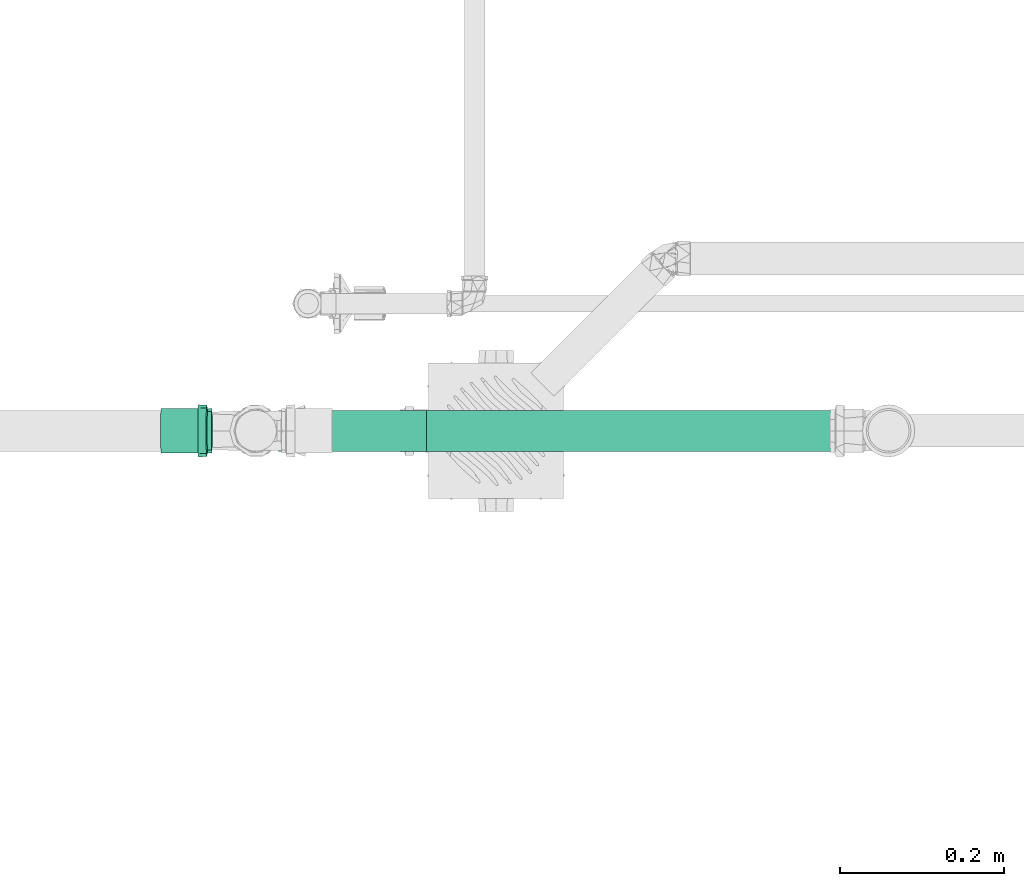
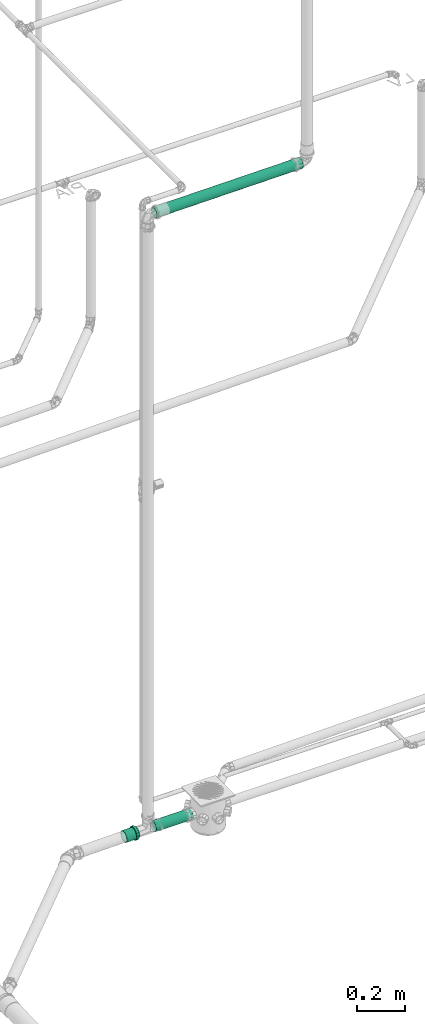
# One storey, part 29 of 589: 2 flow segments, 1 flow fitting.
"""IFC2X3 building model written with IfcOpenShell, lengths in millimetres."""

from ifc_helpers import new_model, entity, si_unit, converted_unit, derived_unit, direction, frame, frame_2d, origin, origin_2d_with_axis, place, context, subcontext, project, spatial, circle, extrude, faceted_brep, source, transform, mapped, material, type_object, type_shapes, element, save


model = new_model("IFC2X3")

# Units and contexts
model_context = context("Model", 3, precision=0.01, world=origin(), true_north=direction((6.123031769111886e-17, 1.0)))
body_context = subcontext(model_context, "Body", "Model", "MODEL_VIEW")
ifc_project = project(units=[si_unit("LENGTHUNIT", "METRE", prefix="MILLI"), si_unit("AREAUNIT", "SQUARE_METRE"), si_unit("VOLUMEUNIT", "CUBIC_METRE"), converted_unit("PLANEANGLEUNIT", "DEGREE", entity("IfcRatioMeasure", 0.017453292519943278), si_unit("PLANEANGLEUNIT", "RADIAN"), dimensions=[0, 0, 0, 0, 0, 0, 0]), si_unit("MASSUNIT", "GRAM", prefix="KILO"), derived_unit("MASSDENSITYUNIT", [(si_unit("MASSUNIT", "GRAM", prefix="KILO"), 1), (si_unit("LENGTHUNIT", "METRE"), -3)]), derived_unit("IONCONCENTRATIONUNIT", [(si_unit("MASSUNIT", "GRAM", prefix="KILO"), 1), (si_unit("LENGTHUNIT", "METRE"), -3)]), derived_unit("MOMENTOFINERTIAUNIT", [(si_unit("LENGTHUNIT", "METRE"), 4)]), si_unit("TIMEUNIT", "SECOND"), si_unit("FREQUENCYUNIT", "HERTZ"), si_unit("THERMODYNAMICTEMPERATUREUNIT", "DEGREE_CELSIUS"), derived_unit("THERMALTRANSMITTANCEUNIT", [(si_unit("MASSUNIT", "GRAM", prefix="KILO"), 1), (si_unit("THERMODYNAMICTEMPERATUREUNIT", "KELVIN"), -1), (si_unit("TIMEUNIT", "SECOND"), -3)]), derived_unit("THERMALCONDUCTANCEUNIT", [(si_unit("MASSUNIT", "GRAM", prefix="KILO"), 1), (si_unit("THERMODYNAMICTEMPERATUREUNIT", "KELVIN"), -1), (si_unit("TIMEUNIT", "SECOND"), -3), (si_unit("LENGTHUNIT", "METRE"), 1)]), derived_unit("VOLUMETRICFLOWRATEUNIT", [(si_unit("LENGTHUNIT", "METRE"), 3), (si_unit("TIMEUNIT", "SECOND"), -1)]), derived_unit("MASSFLOWRATEUNIT", [(si_unit("MASSUNIT", "GRAM", prefix="KILO"), 1), (si_unit("TIMEUNIT", "SECOND"), -1)]), derived_unit("ROTATIONALFREQUENCYUNIT", [(si_unit("TIMEUNIT", "SECOND"), -1)]), si_unit("ELECTRICCURRENTUNIT", "AMPERE"), si_unit("ELECTRICVOLTAGEUNIT", "VOLT"), si_unit("POWERUNIT", "WATT"), si_unit("FORCEUNIT", "NEWTON", prefix="KILO"), si_unit("ILLUMINANCEUNIT", "LUX"), si_unit("LUMINOUSFLUXUNIT", "LUMEN"), si_unit("LUMINOUSINTENSITYUNIT", "CANDELA"), derived_unit("USERDEFINED", [(si_unit("MASSUNIT", "GRAM", prefix="KILO"), -1), (si_unit("LENGTHUNIT", "METRE"), -2), (si_unit("TIMEUNIT", "SECOND"), 3), (si_unit("LUMINOUSFLUXUNIT", "LUMEN"), 1)]), derived_unit("USERDEFINED", [(si_unit("MASSUNIT", "GRAM", prefix="KILO"), 1), (si_unit("TIMEUNIT", "SECOND"), -3), (si_unit("LENGTHUNIT", "METRE"), 3), (si_unit("ELECTRICCURRENTUNIT", "AMPERE"), -2)]), derived_unit("SOUNDPOWERUNIT", [(si_unit("MASSUNIT", "GRAM", prefix="KILO"), 1), (si_unit("TIMEUNIT", "SECOND"), -3), (si_unit("LENGTHUNIT", "METRE"), 2)]), derived_unit("SOUNDPRESSUREUNIT", [(si_unit("MASSUNIT", "GRAM", prefix="KILO"), 1), (si_unit("LENGTHUNIT", "METRE"), -1), (si_unit("TIMEUNIT", "SECOND"), -2)]), derived_unit("LINEARVELOCITYUNIT", [(si_unit("LENGTHUNIT", "METRE"), 1), (si_unit("TIMEUNIT", "SECOND"), -1)]), si_unit("PRESSUREUNIT", "PASCAL"), derived_unit("USERDEFINED", [(si_unit("MASSUNIT", "GRAM", prefix="KILO"), 1), (si_unit("LENGTHUNIT", "METRE"), -2), (si_unit("TIMEUNIT", "SECOND"), -2)]), derived_unit("LINEARFORCEUNIT", [(si_unit("MASSUNIT", "GRAM", prefix="KILO"), 1), (si_unit("TIMEUNIT", "SECOND"), -2)]), derived_unit("PLANARFORCEUNIT", [(si_unit("MASSUNIT", "GRAM", prefix="KILO"), 1), (si_unit("LENGTHUNIT", "METRE"), -1), (si_unit("TIMEUNIT", "SECOND"), -2)]), derived_unit("SPECIFICHEATCAPACITYUNIT", [(si_unit("THERMODYNAMICTEMPERATUREUNIT", "KELVIN"), -1), (si_unit("LENGTHUNIT", "METRE"), 2), (si_unit("TIMEUNIT", "SECOND"), -2)]), derived_unit("HEATINGVALUEUNIT", [(si_unit("LENGTHUNIT", "METRE"), 2), (si_unit("TIMEUNIT", "SECOND"), -2)]), derived_unit("VAPORPERMEABILITYUNIT", [(si_unit("LENGTHUNIT", "METRE"), -1), (si_unit("TIMEUNIT", "SECOND"), 1)]), derived_unit("DYNAMICVISCOSITYUNIT", [(si_unit("MASSUNIT", "GRAM", prefix="KILO"), 1), (si_unit("TIMEUNIT", "SECOND"), -1), (si_unit("LENGTHUNIT", "METRE"), -1)]), derived_unit("THERMALEXPANSIONCOEFFICIENTUNIT", [(si_unit("THERMODYNAMICTEMPERATUREUNIT", "KELVIN"), -1)]), derived_unit("MODULUSOFELASTICITYUNIT", [(si_unit("MASSUNIT", "GRAM", prefix="KILO"), 1), (si_unit("LENGTHUNIT", "METRE"), -1), (si_unit("TIMEUNIT", "SECOND"), -2)]), derived_unit("ISOTHERMALMOISTURECAPACITYUNIT", [(si_unit("LENGTHUNIT", "METRE"), 3), (si_unit("MASSUNIT", "GRAM", prefix="KILO"), -1)]), derived_unit("MOISTUREDIFFUSIVITYUNIT", [(si_unit("TIMEUNIT", "SECOND"), -1), (si_unit("LENGTHUNIT", "METRE"), 2)])], contexts=[model_context])

# Site, building, storey
site_placement = place(None, origin())
site = spatial("IfcSite", under=ifc_project, at=site_placement, Name="Default", CompositionType="ELEMENT")
building_placement = place(site_placement, origin())
building = spatial("IfcBuilding", under=site, at=building_placement, CompositionType="ELEMENT")
storey_placement = place(building_placement, frame((0.0, 0.0, 100.0)))
storey = spatial("IfcBuildingStorey", under=building, at=storey_placement, Name="TÉRREO", CompositionType="ELEMENT", Elevation=100.0)

# Flow segments
pipe_segment_type = type_object("IfcPipeSegmentType", Name="Tipos de tubos:PVC Esgoto Série Normal", PredefinedType="NOTDEFINED")
flow_segment_1_placement = place(storey_placement, origin())
element("IfcFlowSegment", 1, at=flow_segment_1_placement, inside=storey, type_object=pipe_segment_type, Name="Tipos de tubos:PVC Esgoto Série Normal", ObjectType="Tipos de tubos:PVC Esgoto Série Normal", context=body_context, shape_type="SweptSolid", body=[
    extrude(circle(Radius=25.0, at=frame_2d((0.0, -2.1149748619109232e-14), x_axis=(1.0, 0.0))), frame((-7600.933188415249, -7702.352283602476, -117.35270689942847), z_axis=(1.0, 0.0, 0.0), x_axis=(0.0, 1.0, 0.0)), (0.0, 0.0, 1.0), 180.17083583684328),
])
flow_segment_2_placement = place(storey_placement, origin())
element("IfcFlowSegment", 2, at=flow_segment_2_placement, inside=storey, type_object=pipe_segment_type, Name="Tipos de tubos:PVC Esgoto Série Normal", ObjectType="Tipos de tubos:PVC Esgoto Série Normal", context=body_context, shape_type="SweptSolid", body=[
    extrude(circle(Radius=25.0, at=origin_2d_with_axis()), frame((-7597.387957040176, -7702.352283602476, 3021.628786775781), z_axis=(0.9999500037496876, 0.0, 0.009999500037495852), x_axis=(0.0, -1.0, 0.0)), (0.0, 0.0, 1.0), 708.1654988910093),
])

# Flow fitting
ifc_material = material(Name="PVC Série Normal")
pipe_fitting_type = type_object("IfcPipeFittingType", Name="PVC Esgoto_Luva Simples para Conexão_Rodrigo MEP:Standard", PredefinedType="NOTDEFINED", material=ifc_material)
shared_shape = source(origin(), body_context, "Body", "Brep", [
    faceted_brep([(16.599999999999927, 15.900000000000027, -27.53960784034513), (16.599999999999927, 22.485995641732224, -22.485995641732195), (16.599999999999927, 13.599999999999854, -23.555890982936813), (16.599999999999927, 7.039878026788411, -26.273182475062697), (16.599999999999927, 8.2304456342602, -30.71644127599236), (16.599999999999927, 19.233304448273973, -19.233304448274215), (16.599999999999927, 27.539607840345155, -15.899999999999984), (16.599999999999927, 23.55589098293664, -13.600000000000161), (16.599999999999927, 26.273182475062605, -7.03987802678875), (16.599999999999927, 30.716441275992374, -8.230445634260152), (16.599999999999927, 27.2, 0.0), (16.599999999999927, 31.8, 0.0), (16.599999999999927, 26.273182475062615, 7.0398780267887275), (16.599999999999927, 30.71644127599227, 8.23044563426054), (16.599999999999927, 23.555890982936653, 13.60000000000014), (16.599999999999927, 27.539607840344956, 15.900000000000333), (16.599999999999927, 19.233304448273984, 19.2333044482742), (16.599999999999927, 22.485995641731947, 22.48599564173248), (16.599999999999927, 13.599999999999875, 23.555890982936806), (16.599999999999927, 15.899999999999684, 27.53960784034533), (16.599999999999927, 7.039878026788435, 26.27318247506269), (16.599999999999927, 8.230445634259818, 30.716441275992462), (16.599999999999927, 0.0, 27.2), (16.599999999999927, 0.0, 31.8), (16.599999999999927, -7.039878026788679, 26.273182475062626), (16.599999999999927, -8.230445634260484, 30.716441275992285), (16.599999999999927, -13.600000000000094, 23.555890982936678), (16.599999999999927, -15.900000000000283, 27.53960784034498), (16.599999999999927, -19.23330444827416, 19.233304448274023), (16.599999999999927, -22.485995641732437, 22.48599564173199), (16.599999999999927, -23.55589098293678, 13.59999999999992), (16.599999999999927, -27.539607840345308, 15.899999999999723), (16.599999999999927, -30.71644127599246, 8.230445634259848), (16.599999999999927, -26.273182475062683, 7.039878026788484), (16.599999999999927, -31.8, 0.0), (16.599999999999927, -27.2, 0.0), (16.599999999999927, -30.71644127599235, -8.23044563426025), (16.599999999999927, -26.273182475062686, -7.03987802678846), (16.599999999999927, -27.53960784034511, -15.90000000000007), (16.599999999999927, -23.55589098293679, -13.599999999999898), (16.599999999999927, -22.485995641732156, -22.485995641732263), (16.599999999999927, -19.233304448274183, -19.233304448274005), (16.599999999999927, -15.899999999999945, -27.53960784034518), (16.599999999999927, -13.600000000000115, -23.555890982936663), (16.599999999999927, -8.230445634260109, -30.716441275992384), (16.599999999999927, -7.039878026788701, -26.273182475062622), (16.599999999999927, 0.0, -31.8), (16.599999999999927, 0.0, -27.2), (6.500000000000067, -10.708108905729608, 29.429219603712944), (6.500000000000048, -24.359073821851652, 20.44200387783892), (6.500000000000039, -27.120498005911, 15.6595386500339), (6.50000000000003, -29.881922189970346, 10.877073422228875), (6.500000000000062, -15.89769721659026, 27.540937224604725), (6.500000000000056, -20.128385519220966, 23.991470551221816), (6.50000000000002, -30.840961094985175, 5.438536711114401), (6.5000000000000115, -31.8, 0.0), (6.50000000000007, -5.518520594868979, 31.317501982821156), (6.500000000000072, 5.526376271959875, 31.316116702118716), (6.50000000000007, 0.00392783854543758, 31.316809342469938), (6.500000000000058, 20.134403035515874, 23.986420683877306), (6.500000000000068, 10.715490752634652, 29.42653259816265), (6.500000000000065, 15.904605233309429, 27.536948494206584), (6.500000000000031, 29.8846497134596, 10.869577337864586), (6.500000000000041, 27.12442527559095, 15.652735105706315), (6.5000000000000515, 24.364200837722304, 20.435892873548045), (6.5000000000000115, 31.8, 0.0), (6.499999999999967, 24.364200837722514, -20.435892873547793), (6.499999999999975, 27.12442527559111, -15.652735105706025), (6.499999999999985, 29.884649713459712, -10.869577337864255), (6.4999999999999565, 15.904605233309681, -27.53694849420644), (6.499999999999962, 20.134403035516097, -23.986420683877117), (6.499999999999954, 10.715490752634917, -29.42653259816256), (6.499999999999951, 5.526376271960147, -31.31611670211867), (6.499999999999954, -5.518520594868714, -31.317501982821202), (6.499999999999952, 0.003927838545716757, -31.316809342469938), (6.499999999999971, -20.128385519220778, -23.99147055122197), (6.499999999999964, -15.897697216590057, -27.54093722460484), (6.499999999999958, -10.70810890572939, -29.42921960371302), (6.499999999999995, -29.881922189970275, -10.877073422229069), (6.499999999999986, -27.12049800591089, -15.659538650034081), (6.499999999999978, -24.359073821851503, -20.442003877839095), (6.500000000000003, -30.840961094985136, -5.438536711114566), (6.499999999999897, -30.696173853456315, -6.259599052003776), (62.0, 13.600000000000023, -23.55589098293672), (62.0, 19.233304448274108, -19.23330444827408), (62.0, 12.499999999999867, -21.650635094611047), (62.0, 6.470476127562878, -24.14814565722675), (62.0, 7.039878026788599, -26.273182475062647), (62.0, 17.677669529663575, -17.677669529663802), (62.0, 23.55589098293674, -13.599999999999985), (62.0, 21.65063509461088, -12.50000000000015), (62.0, 24.148145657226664, -6.470476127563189), (62.0, 26.27318247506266, -7.039878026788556), (62.0, 25.0, 0.0), (62.0, 27.2, 0.0), (62.0, 24.148145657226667, 6.4704761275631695), (62.0, 26.273182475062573, 7.03987802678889), (62.0, 21.650635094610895, 12.500000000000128), (62.0, 23.555890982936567, 13.600000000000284), (62.0, 17.67766952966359, 17.67766952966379), (62.0, 19.233304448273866, 19.233304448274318), (62.0, 12.499999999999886, 21.650635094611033), (62.0, 13.59999999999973, 23.55589098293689), (62.0, 6.4704761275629, 24.14814565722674), (62.0, 7.039878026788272, 26.273182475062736), (62.0, 0.0, 25.0), (62.0, 0.0, 27.2), (62.0, -6.470476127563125, 24.148145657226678), (62.0, -7.039878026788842, 26.273182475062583), (62.0, -12.500000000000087, 21.650635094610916), (62.0, -13.600000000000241, 23.555890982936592), (62.0, -17.677669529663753, 17.677669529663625), (62.0, -19.233304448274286, 19.2333044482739), (62.0, -21.65063509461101, 12.499999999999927), (62.0, -23.555890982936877, 13.599999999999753), (62.0, -26.27318247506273, 7.039878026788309), (62.0, -24.14814565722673, 6.470476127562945), (62.0, -27.2, 0.0), (62.0, -25.0, 0.0), (62.0, -26.27318247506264, -7.0398780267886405), (62.0, -24.148145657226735, -6.470476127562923), (62.0, -23.5558909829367, -13.600000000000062), (62.0, -21.650635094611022, -12.499999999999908), (62.0, -19.233304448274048, -19.233304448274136), (62.0, -17.67766952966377, -17.677669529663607), (62.0, -13.599999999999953, -23.555890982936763), (62.0, -12.500000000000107, -21.650635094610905), (62.0, -7.039878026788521, -26.27318247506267), (62.0, -6.470476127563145, -24.148145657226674), (62.0, 0.0, -27.2), (62.0, 0.0, -25.0), (0.0, 12.499999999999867, -21.650635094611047), (0.0, 19.233304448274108, -19.23330444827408), (0.0, 13.600000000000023, -23.55589098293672), (0.0, 6.470476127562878, -24.14814565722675), (0.0, 17.677669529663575, -17.677669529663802), (0.0, 23.55589098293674, -13.599999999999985), (0.0, 21.65063509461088, -12.50000000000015), (0.0, 24.148145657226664, -6.470476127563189), (0.0, 26.27318247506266, -7.039878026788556), (0.0, 25.0, 0.0), (0.0, 27.2, 0.0), (0.0, 24.148145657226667, 6.4704761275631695), (0.0, 26.273182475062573, 7.03987802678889), (0.0, 21.650635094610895, 12.500000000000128), (0.0, 23.555890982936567, 13.600000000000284), (0.0, 17.67766952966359, 17.67766952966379), (0.0, 19.233304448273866, 19.233304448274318), (0.0, 12.499999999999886, 21.650635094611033), (0.0, 13.59999999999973, 23.55589098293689), (0.0, 6.4704761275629, 24.14814565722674), (0.0, 7.039878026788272, 26.273182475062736), (0.0, 0.0, 25.0), (0.0, 0.0, 27.2), (0.0, -6.470476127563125, 24.148145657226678), (0.0, -7.039878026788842, 26.273182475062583), (0.0, -12.500000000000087, 21.650635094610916), (0.0, -13.600000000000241, 23.555890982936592), (0.0, -17.677669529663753, 17.677669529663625), (0.0, -19.233304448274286, 19.2333044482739), (0.0, -21.65063509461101, 12.499999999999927), (0.0, -23.555890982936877, 13.599999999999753), (0.0, -26.27318247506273, 7.039878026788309), (0.0, -24.14814565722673, 6.470476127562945), (0.0, -27.2, 0.0), (0.0, -25.0, 0.0), (0.0, -26.27318247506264, -7.0398780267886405), (0.0, -24.148145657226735, -6.470476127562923), (0.0, -23.5558909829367, -13.600000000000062), (0.0, -21.650635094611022, -12.499999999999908), (0.0, -19.233304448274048, -19.233304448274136), (0.0, -17.67766952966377, -17.677669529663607), (0.0, -13.599999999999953, -23.555890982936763), (0.0, -12.500000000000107, -21.650635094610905), (0.0, -7.039878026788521, -26.27318247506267), (0.0, -6.470476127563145, -24.148145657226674), (0.0, 0.0, -27.2), (0.0, 0.0, -25.0), (0.0, 7.039878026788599, -26.273182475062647), (5.300000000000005, -26.37968999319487, 4.651830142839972), (5.299999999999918, -26.25584678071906, 5.354122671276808), (5.300000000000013, -25.559379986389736, 9.303660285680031), (5.300000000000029, -20.835434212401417, 17.48498444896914), (5.300000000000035, -17.216732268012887, 20.521006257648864), (5.300000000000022, -23.19740709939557, 13.394322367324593), (5.3000000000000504, -4.720244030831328, 26.787297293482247), (5.300000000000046, -9.15913717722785, 25.172162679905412), (5.299999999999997, -27.2, 0.0), (5.300000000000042, -13.598030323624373, 23.557028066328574), (5.300000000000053, 9.165451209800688, 25.169864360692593), (5.300000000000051, 13.603939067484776, 23.55361632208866), (5.300000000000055, 4.7269633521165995, 26.786112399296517), (5.300000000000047, 17.221879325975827, 20.516686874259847), (5.300000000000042, 20.839819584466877, 17.479757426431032), (5.3000000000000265, 25.56171296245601, 9.297248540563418), (5.299999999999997, 27.2, 0.0), (5.3000000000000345, 23.20076627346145, 13.388502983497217), (5.300000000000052, 0.003359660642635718, 26.786704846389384), (5.299999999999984, 25.56171296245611, -9.29724854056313), (5.299999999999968, 20.839819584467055, -17.47975742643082), (5.2999999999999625, 17.22187932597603, -20.516686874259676), (5.299999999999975, 23.200766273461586, -13.388502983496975), (5.299999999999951, 4.726963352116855, -26.78611239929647), (5.2999999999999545, 9.165451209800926, -25.169864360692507), (5.299999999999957, 13.603939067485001, -23.553616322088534), (5.29999999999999, -26.379689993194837, -4.651830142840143), (5.299999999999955, -9.159137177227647, -25.17216267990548), (5.299999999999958, -13.5980303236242, -23.55702806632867), (5.299999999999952, -4.720244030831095, -26.787297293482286), (5.299999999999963, -17.216732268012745, -20.52100625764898), (5.299999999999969, -20.83543421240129, -17.484984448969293), (5.299999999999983, -25.559379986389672, -9.303660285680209), (5.299999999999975, -23.197407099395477, -13.394322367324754), (5.299999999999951, 0.003359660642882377, -26.78670484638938), (39.0, -25.0, 0.0), (39.0, 25.0, 0.0)], [[[0, 1, 2]], [[0, 2, 3]], [[3, 4, 0]], [[2, 1, 5]], [[6, 5, 1]], [[7, 5, 6]], [[8, 7, 6]], [[8, 6, 9]], [[8, 9, 10]], [[10, 9, 11]], [[12, 10, 11]], [[12, 11, 13]], [[14, 12, 13]], [[14, 13, 15]], [[16, 14, 15]], [[15, 17, 16]], [[17, 18, 16]], [[17, 19, 18]], [[18, 19, 20]], [[21, 20, 19]], [[20, 21, 22]], [[22, 21, 23]], [[22, 23, 24]], [[24, 23, 25]], [[24, 25, 26]], [[27, 26, 25]], [[27, 28, 26]], [[28, 27, 29]], [[30, 28, 29]], [[31, 30, 29]], [[32, 30, 31]], [[33, 30, 32]], [[33, 32, 34]], [[35, 33, 34]], [[36, 35, 34]], [[36, 37, 35]], [[37, 36, 38]], [[39, 37, 38]], [[39, 38, 40]], [[39, 40, 41]], [[40, 42, 41]], [[41, 42, 43]], [[43, 42, 44]], [[44, 45, 43]], [[46, 45, 44]], [[4, 47, 46]], [[46, 47, 45]], [[4, 3, 47]], [[48, 27, 25]], [[31, 29, 49]], [[31, 49, 50, 51]], [[52, 53, 27]], [[32, 51, 54]], [[54, 55, 34]], [[54, 34, 32]], [[25, 56, 48]], [[49, 29, 53]], [[23, 57, 58, 56]], [[59, 19, 17]], [[27, 53, 29]], [[48, 52, 27]], [[31, 51, 32]], [[57, 23, 21]], [[60, 19, 61]], [[15, 62, 63, 64]], [[19, 60, 21]], [[15, 13, 62]], [[17, 64, 59]], [[57, 21, 60]], [[23, 56, 25]], [[15, 64, 17]], [[13, 65, 62]], [[13, 11, 65]], [[59, 61, 19]], [[65, 11, 9]], [[6, 1, 66]], [[6, 66, 67, 68]], [[69, 70, 0]], [[68, 65, 9]], [[71, 69, 0]], [[71, 0, 4]], [[4, 72, 71]], [[66, 1, 70]], [[46, 73, 74, 72]], [[75, 76, 42]], [[0, 70, 1]], [[75, 42, 40]], [[6, 68, 9]], [[73, 46, 44]], [[77, 42, 76]], [[38, 78, 79, 80]], [[42, 77, 44]], [[38, 36, 78]], [[40, 80, 75]], [[73, 44, 77]], [[46, 72, 4]], [[38, 80, 40]], [[36, 81, 82, 78]], [[55, 81, 34]], [[34, 81, 36]], [[83, 84, 85]], [[83, 85, 86]], [[86, 87, 83]], [[85, 84, 88]], [[89, 88, 84]], [[88, 89, 90]], [[90, 89, 91]], [[92, 91, 89]], [[92, 93, 91]], [[93, 92, 94]], [[95, 93, 94]], [[94, 96, 95]], [[95, 96, 97]], [[98, 97, 96]], [[97, 98, 99]], [[99, 98, 100]], [[101, 99, 100]], [[100, 102, 101]], [[101, 102, 103]], [[104, 103, 102]], [[103, 104, 105]], [[105, 104, 106]], [[105, 106, 107]], [[107, 106, 108]], [[107, 108, 109]], [[110, 109, 108]], [[110, 111, 109]], [[111, 110, 112]], [[112, 113, 111]], [[114, 113, 112]], [[113, 114, 115]], [[115, 116, 113]], [[117, 116, 115]], [[117, 118, 116]], [[119, 118, 117]], [[119, 120, 118]], [[120, 119, 121]], [[121, 122, 120]], [[122, 121, 123]], [[122, 123, 124]], [[123, 125, 124]], [[124, 125, 126]], [[126, 125, 127]], [[127, 128, 126]], [[129, 128, 127]], [[87, 130, 129]], [[129, 130, 128]], [[87, 86, 130]], [[131, 132, 133]], [[134, 131, 133]], [[135, 132, 131]], [[132, 135, 136]], [[137, 136, 135]], [[138, 136, 137]], [[136, 138, 139]], [[138, 140, 139]], [[141, 139, 140]], [[141, 140, 142]], [[142, 143, 141]], [[144, 143, 142]], [[143, 144, 145]], [[146, 145, 144]], [[147, 145, 146]], [[147, 146, 148]], [[148, 149, 147]], [[150, 149, 148]], [[149, 150, 151]], [[152, 151, 150]], [[153, 151, 152]], [[154, 153, 152]], [[155, 153, 154]], [[156, 155, 154]], [[155, 156, 157]], [[156, 158, 157]], [[159, 157, 158]], [[158, 160, 159]], [[159, 160, 161]], [[162, 161, 160]], [[160, 163, 162]], [[162, 163, 164]], [[163, 165, 164]], [[164, 165, 166]], [[165, 167, 166]], [[168, 166, 167]], [[167, 169, 168]], [[170, 168, 169]], [[171, 170, 169]], [[171, 172, 170]], [[173, 172, 171]], [[174, 172, 173]], [[173, 175, 174]], [[174, 175, 176]], [[175, 177, 176]], [[177, 134, 178]], [[176, 177, 178]], [[133, 178, 134]], [[162, 179, 180, 181]], [[159, 182, 183]], [[182, 161, 181, 184]], [[185, 155, 186]], [[161, 162, 181]], [[187, 179, 164]], [[183, 188, 157]], [[183, 157, 159]], [[161, 182, 159]], [[189, 190, 149]], [[189, 149, 151]], [[157, 188, 186]], [[157, 186, 155]], [[153, 155, 185]], [[164, 179, 162]], [[151, 191, 189]], [[147, 192, 193]], [[143, 194, 195]], [[194, 145, 193, 196]], [[143, 195, 141]], [[10, 12, 96, 94]], [[149, 192, 147]], [[153, 185, 197, 191]], [[153, 191, 151]], [[145, 147, 193]], [[190, 192, 149]], [[145, 194, 143]], [[139, 195, 198]], [[132, 199, 200]], [[199, 136, 198, 201]], [[202, 178, 203]], [[136, 139, 198]], [[139, 141, 195]], [[92, 8, 10, 94]], [[133, 203, 178]], [[200, 204, 133]], [[136, 199, 132]], [[205, 164, 166]], [[206, 207, 172]], [[133, 204, 203]], [[206, 172, 174]], [[176, 178, 202]], [[200, 133, 132]], [[174, 208, 206]], [[170, 209, 210]], [[166, 211, 205]], [[211, 168, 210, 212]], [[168, 211, 166]], [[172, 209, 170]], [[176, 202, 213, 208]], [[176, 208, 174]], [[168, 170, 210]], [[207, 209, 172]], [[205, 187, 164]], [[116, 118, 214, 165, 163]], [[156, 109, 111, 158]], [[111, 113, 160, 158]], [[113, 116, 163, 160]], [[107, 109, 156, 154]], [[154, 152, 105, 107]], [[103, 105, 152, 150]], [[103, 150, 148, 101]], [[142, 95, 97, 144]], [[97, 99, 146, 144]], [[99, 101, 148, 146]], [[93, 95, 142, 140, 215]], [[215, 140, 138, 91, 93]], [[135, 131, 85, 88]], [[90, 91, 138, 137]], [[90, 137, 135, 88]], [[86, 85, 131, 134]], [[134, 177, 130, 86]], [[128, 130, 177, 175]], [[128, 175, 173, 126]], [[167, 120, 122, 169]], [[122, 124, 171, 169]], [[124, 126, 173, 171]], [[118, 120, 167, 165, 214]], [[211, 78, 82, 81, 55, 187, 205]], [[79, 78, 211, 212, 210, 80]], [[75, 80, 210, 209, 207, 76]], [[207, 206, 208, 73, 77, 76]], [[213, 202, 72, 74, 73, 208]], [[203, 204, 69, 71, 72, 202]], [[198, 195, 65, 68]], [[199, 201, 198, 68, 67, 66]], [[204, 200, 199, 66, 70, 69]], [[195, 194, 62, 65]], [[197, 185, 56, 58, 57, 191]], [[63, 62, 194, 196, 193, 64]], [[57, 60, 61, 190, 189, 191]], [[193, 192, 190, 61, 59, 64]], [[48, 56, 185, 186, 188, 52]], [[187, 55, 54, 51, 181, 180, 179]], [[182, 184, 181, 51, 50, 49]], [[188, 183, 182, 49, 53, 52]], [[30, 33, 115, 114]], [[117, 115, 33, 35]], [[26, 28, 112, 110]], [[114, 112, 28, 30]], [[24, 26, 110, 108]], [[108, 106, 22, 24]], [[18, 20, 104, 102]], [[100, 16, 18, 102]], [[12, 14, 98, 96]], [[100, 98, 14, 16]], [[104, 20, 22, 106]], [[89, 7, 8, 92]], [[83, 87, 3, 2]], [[7, 89, 84, 5]], [[83, 2, 5, 84]], [[87, 129, 47, 3]], [[43, 45, 127, 125]], [[123, 41, 43, 125]], [[37, 39, 121, 119]], [[123, 121, 39, 41]], [[35, 37, 119, 117]], [[127, 45, 47, 129]]]),
])
type_shapes(pipe_fitting_type, [shared_shape])
flow_fitting_placement = place(storey_placement, frame((-7681.9169932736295, -7702.352283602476, -118.97238299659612), z_axis=(0.0, 1.0, 0.0), x_axis=(-0.9998000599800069, 0.0, -0.019996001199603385)))
element("IfcFlowFitting", 3, at=flow_fitting_placement, inside=storey, type_object=pipe_fitting_type, material=ifc_material, Name="PVC Esgoto_Luva Simples para Conexão_Rodrigo MEP:Standard", ObjectType="PVC Esgoto_Luva Simples para Conexão_Rodrigo MEP:Standard", context=body_context, shape_type="MappedRepresentation", body=[
    mapped(shared_shape, transform((0.0, 0.0, 0.0), scale=1.0)),
])

save(model, "model.ifc")
